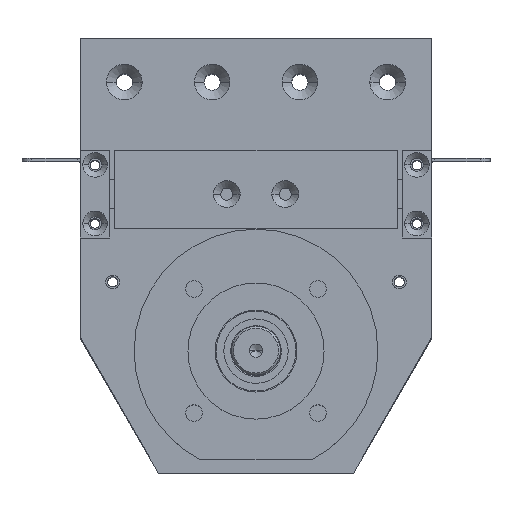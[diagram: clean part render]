
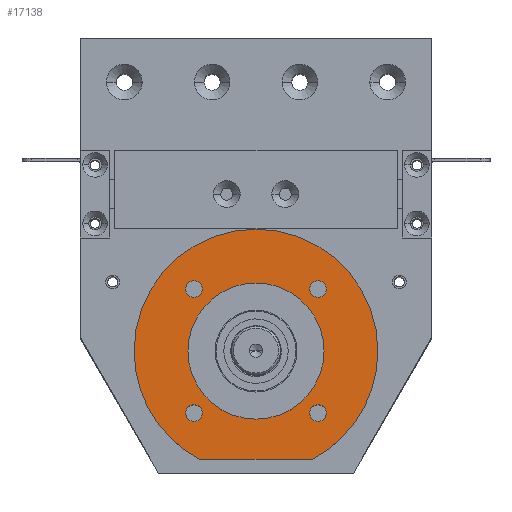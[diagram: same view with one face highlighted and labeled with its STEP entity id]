
A CAD part, top view. The second image highlights one B-rep face of the part: STEP entity #17138.
In plain terms, the highlighted planar face has unit normal (0, 0, 1) as drawn and (-1, 0, 0) by its records, which use the part's own axes.
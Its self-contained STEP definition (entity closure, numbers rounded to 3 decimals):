
#15 = EDGE_CURVE ( 'NONE', #8097, #7565, #2624, .T. ) ;
#18 = EDGE_CURVE ( 'NONE', #8171, #7439, #2617, .T. ) ;
#22 = EDGE_CURVE ( 'NONE', #7751, #7414, #2688, .T. ) ;
#26 = EDGE_CURVE ( 'NONE', #7416, #7197, #2598, .T. ) ;
#54 = EDGE_CURVE ( 'NONE', #8050, #7745, #2532, .T. ) ;
#60 = EDGE_CURVE ( 'NONE', #8137, #8145, #2731, .T. ) ;
#63 = EDGE_CURVE ( 'NONE', #8413, #8137, #2738, .T. ) ;
#91 = EDGE_CURVE ( 'NONE', #8145, #8587, #2706, .T. ) ;
#93 = EDGE_CURVE ( 'NONE', #7565, #8097, #2569, .T. ) ;
#94 = EDGE_CURVE ( 'NONE', #7439, #8171, #2669, .T. ) ;
#95 = EDGE_CURVE ( 'NONE', #7414, #7751, #2645, .T. ) ;
#96 = EDGE_CURVE ( 'NONE', #7197, #7416, #2646, .T. ) ;
#97 = EDGE_CURVE ( 'NONE', #7745, #8050, #2647, .T. ) ;
#98 = EDGE_CURVE ( 'NONE', #8413, #8587, #2648, .T. ) ;
#309 = EDGE_LOOP ( 'NONE', ( #9575, #9576, #9577, #9578 ) ) ;
#310 = EDGE_LOOP ( 'NONE', ( #9571, #9572 ) ) ;
#311 = EDGE_LOOP ( 'NONE', ( #9573, #9574 ) ) ;
#312 = EDGE_LOOP ( 'NONE', ( #9567, #9568 ) ) ;
#313 = EDGE_LOOP ( 'NONE', ( #9569, #9570 ) ) ;
#316 = EDGE_LOOP ( 'NONE', ( #9565, #9566 ) ) ;
#969 = AXIS2_PLACEMENT_3D ( 'NONE', #15608, #15609, #15610 ) ;
#970 = AXIS2_PLACEMENT_3D ( 'NONE', #15605, #15606, #15607 ) ;
#971 = AXIS2_PLACEMENT_3D ( 'NONE', #15600, #15601, #15602 ) ;
#972 = AXIS2_PLACEMENT_3D ( 'NONE', #15597, #15598, #15599 ) ;
#973 = AXIS2_PLACEMENT_3D ( 'NONE', #15594, #15595, #15596 ) ;
#975 = AXIS2_PLACEMENT_3D ( 'NONE', #15588, #15589, #15590 ) ;
#994 = AXIS2_PLACEMENT_3D ( 'NONE', #15516, #15517, #15518 ) ;
#996 = AXIS2_PLACEMENT_3D ( 'NONE', #15507, #15508, #15509 ) ;
#999 = AXIS2_PLACEMENT_3D ( 'NONE', #15491, #15492, #15493 ) ;
#1009 = AXIS2_PLACEMENT_3D ( 'NONE', #1064, #1065, #1066 ) ;
#1011 = AXIS2_PLACEMENT_3D ( 'NONE', #1054, #1055, #1056 ) ;
#1013 = AXIS2_PLACEMENT_3D ( 'NONE', #1044, #1045, #1046 ) ;
#1015 = AXIS2_PLACEMENT_3D ( 'NONE', #1035, #1036, #1037 ) ;
#1035 = CARTESIAN_POINT ( 'NONE',  ( 2., -31.82, -31.82 ) ) ;
#1036 = DIRECTION ( 'NONE',  ( 1., 0., 0. ) ) ;
#1037 = DIRECTION ( 'NONE',  ( 0., 0., -1. ) ) ;
#1044 = CARTESIAN_POINT ( 'NONE',  ( 2., -31.82, 31.82 ) ) ;
#1045 = DIRECTION ( 'NONE',  ( 1., 0., 0. ) ) ;
#1046 = DIRECTION ( 'NONE',  ( 0., 0., -1. ) ) ;
#1054 = CARTESIAN_POINT ( 'NONE',  ( 2., 31.82, 31.82 ) ) ;
#1055 = DIRECTION ( 'NONE',  ( 1., 0., 0. ) ) ;
#1056 = DIRECTION ( 'NONE',  ( 0., 0., -1. ) ) ;
#1064 = CARTESIAN_POINT ( 'NONE',  ( 2., 31.82, -31.82 ) ) ;
#1065 = DIRECTION ( 'NONE',  ( 1., 0., 0. ) ) ;
#1066 = DIRECTION ( 'NONE',  ( 0., 0., -1. ) ) ;
#2532 = CIRCLE ( 'NONE', #999, 34.9 ) ;
#2569 = CIRCLE ( 'NONE', #973, 4.25 ) ;
#2598 = CIRCLE ( 'NONE', #1009, 4.25 ) ;
#2617 = CIRCLE ( 'NONE', #1013, 4.25 ) ;
#2624 = CIRCLE ( 'NONE', #1015, 4.25 ) ;
#2645 = CIRCLE ( 'NONE', #971, 4.25 ) ;
#2646 = CIRCLE ( 'NONE', #970, 4.25 ) ;
#2647 = CIRCLE ( 'NONE', #969, 34.9 ) ;
#2648 = LINE ( 'NONE', #15603, #2655 ) ;
#2655 = VECTOR ( 'NONE', #15604, 1000. ) ;
#2669 = CIRCLE ( 'NONE', #972, 4.25 ) ;
#2688 = CIRCLE ( 'NONE', #1011, 4.25 ) ;
#2706 = CIRCLE ( 'NONE', #975, 62.5 ) ;
#2731 = CIRCLE ( 'NONE', #996, 62.5 ) ;
#2738 = CIRCLE ( 'NONE', #994, 62.5 ) ;
#7197 = VERTEX_POINT ( 'NONE', #14864 ) ;
#7414 = VERTEX_POINT ( 'NONE', #14996 ) ;
#7416 = VERTEX_POINT ( 'NONE', #14997 ) ;
#7439 = VERTEX_POINT ( 'NONE', #15005 ) ;
#7565 = VERTEX_POINT ( 'NONE', #15057 ) ;
#7745 = VERTEX_POINT ( 'NONE', #15125 ) ;
#7751 = VERTEX_POINT ( 'NONE', #15128 ) ;
#8050 = VERTEX_POINT ( 'NONE', #15214 ) ;
#8097 = VERTEX_POINT ( 'NONE', #15233 ) ;
#8137 = VERTEX_POINT ( 'NONE', #15249 ) ;
#8145 = VERTEX_POINT ( 'NONE', #15251 ) ;
#8171 = VERTEX_POINT ( 'NONE', #15255 ) ;
#8413 = VERTEX_POINT ( 'NONE', #15357 ) ;
#8587 = VERTEX_POINT ( 'NONE', #15469 ) ;
#9565 = ORIENTED_EDGE ( 'NONE', *, *, #93, .T. ) ;
#9566 = ORIENTED_EDGE ( 'NONE', *, *, #15, .T. ) ;
#9567 = ORIENTED_EDGE ( 'NONE', *, *, #94, .T. ) ;
#9568 = ORIENTED_EDGE ( 'NONE', *, *, #18, .T. ) ;
#9569 = ORIENTED_EDGE ( 'NONE', *, *, #95, .T. ) ;
#9570 = ORIENTED_EDGE ( 'NONE', *, *, #22, .T. ) ;
#9571 = ORIENTED_EDGE ( 'NONE', *, *, #96, .T. ) ;
#9572 = ORIENTED_EDGE ( 'NONE', *, *, #26, .T. ) ;
#9573 = ORIENTED_EDGE ( 'NONE', *, *, #54, .F. ) ;
#9574 = ORIENTED_EDGE ( 'NONE', *, *, #97, .F. ) ;
#9575 = ORIENTED_EDGE ( 'NONE', *, *, #63, .T. ) ;
#9576 = ORIENTED_EDGE ( 'NONE', *, *, #60, .T. ) ;
#9577 = ORIENTED_EDGE ( 'NONE', *, *, #91, .T. ) ;
#9578 = ORIENTED_EDGE ( 'NONE', *, *, #98, .F. ) ;
#12152 = FACE_OUTER_BOUND ( 'NONE', #309, .T. ) ;
#12154 = FACE_BOUND ( 'NONE', #312, .T. ) ;
#12158 = FACE_BOUND ( 'NONE', #311, .T. ) ;
#12160 = FACE_BOUND ( 'NONE', #316, .T. ) ;
#12168 = FACE_BOUND ( 'NONE', #310, .T. ) ;
#12170 = FACE_BOUND ( 'NONE', #313, .T. ) ;
#14864 = CARTESIAN_POINT ( 'NONE',  ( 2., 31.82, -36.07 ) ) ;
#14996 = CARTESIAN_POINT ( 'NONE',  ( 2., 31.82, 27.57 ) ) ;
#14997 = CARTESIAN_POINT ( 'NONE',  ( 2., 31.82, -27.57 ) ) ;
#15005 = CARTESIAN_POINT ( 'NONE',  ( 2., -31.82, 27.57 ) ) ;
#15057 = CARTESIAN_POINT ( 'NONE',  ( 2., -31.82, -36.07 ) ) ;
#15125 = CARTESIAN_POINT ( 'NONE',  ( 2., 0., -34.9 ) ) ;
#15128 = CARTESIAN_POINT ( 'NONE',  ( 2., 31.82, 36.07 ) ) ;
#15214 = CARTESIAN_POINT ( 'NONE',  ( 2., 0., 34.9 ) ) ;
#15233 = CARTESIAN_POINT ( 'NONE',  ( 2., -31.82, -27.57 ) ) ;
#15249 = CARTESIAN_POINT ( 'NONE',  ( 2., 0., 62.5 ) ) ;
#15251 = CARTESIAN_POINT ( 'NONE',  ( 2., 0., -62.5 ) ) ;
#15255 = CARTESIAN_POINT ( 'NONE',  ( 2., -31.82, 36.07 ) ) ;
#15357 = CARTESIAN_POINT ( 'NONE',  ( 2., -55.5, 28.74 ) ) ;
#15469 = CARTESIAN_POINT ( 'NONE',  ( 2., -55.5, -28.74 ) ) ;
#15491 = CARTESIAN_POINT ( 'NONE',  ( 2., 0., 0. ) ) ;
#15492 = DIRECTION ( 'NONE',  ( -1., 0., 0. ) ) ;
#15493 = DIRECTION ( 'NONE',  ( 0., 0., 1. ) ) ;
#15507 = CARTESIAN_POINT ( 'NONE',  ( 2., 0., 0. ) ) ;
#15508 = DIRECTION ( 'NONE',  ( -1., 0., 0. ) ) ;
#15509 = DIRECTION ( 'NONE',  ( 0., 0., 1. ) ) ;
#15516 = CARTESIAN_POINT ( 'NONE',  ( 2., 0., 0. ) ) ;
#15517 = DIRECTION ( 'NONE',  ( -1., 0., 0. ) ) ;
#15518 = DIRECTION ( 'NONE',  ( 0., 0., 1. ) ) ;
#15588 = CARTESIAN_POINT ( 'NONE',  ( 2., 0., 0. ) ) ;
#15589 = DIRECTION ( 'NONE',  ( -1., 0., 0. ) ) ;
#15590 = DIRECTION ( 'NONE',  ( 0., 0., 1. ) ) ;
#15594 = CARTESIAN_POINT ( 'NONE',  ( 2., -31.82, -31.82 ) ) ;
#15595 = DIRECTION ( 'NONE',  ( 1., 0., 0. ) ) ;
#15596 = DIRECTION ( 'NONE',  ( 0., 0., -1. ) ) ;
#15597 = CARTESIAN_POINT ( 'NONE',  ( 2., -31.82, 31.82 ) ) ;
#15598 = DIRECTION ( 'NONE',  ( 1., 0., 0. ) ) ;
#15599 = DIRECTION ( 'NONE',  ( 0., 0., -1. ) ) ;
#15600 = CARTESIAN_POINT ( 'NONE',  ( 2., 31.82, 31.82 ) ) ;
#15601 = DIRECTION ( 'NONE',  ( 1., 0., 0. ) ) ;
#15602 = DIRECTION ( 'NONE',  ( 0., 0., -1. ) ) ;
#15603 = CARTESIAN_POINT ( 'NONE',  ( 2., -55.5, 28.74 ) ) ;
#15604 = DIRECTION ( 'NONE',  ( 0., 0., -1. ) ) ;
#15605 = CARTESIAN_POINT ( 'NONE',  ( 2., 31.82, -31.82 ) ) ;
#15606 = DIRECTION ( 'NONE',  ( 1., 0., 0. ) ) ;
#15607 = DIRECTION ( 'NONE',  ( 0., 0., -1. ) ) ;
#15608 = CARTESIAN_POINT ( 'NONE',  ( 2., 0., 0. ) ) ;
#15609 = DIRECTION ( 'NONE',  ( -1., 0., 0. ) ) ;
#15610 = DIRECTION ( 'NONE',  ( 0., 0., 1. ) ) ;
#16489 = AXIS2_PLACEMENT_3D ( 'NONE', #19008, #19001, #19010 ) ;
#17138 = ADVANCED_FACE ( 'NONE', ( #12160, #12154, #12170, #12168, #12158, #12152 ), #19006, .F. ) ;
#19001 = DIRECTION ( 'NONE',  ( 1., 0., 0. ) ) ;
#19006 = PLANE ( 'NONE',  #16489 ) ;
#19008 = CARTESIAN_POINT ( 'NONE',  ( 2., 62.5, 0. ) ) ;
#19010 = DIRECTION ( 'NONE',  ( 0., 0., -1. ) ) ;
